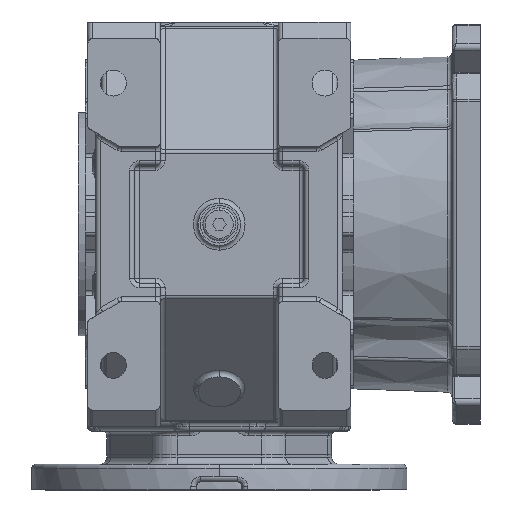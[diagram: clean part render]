
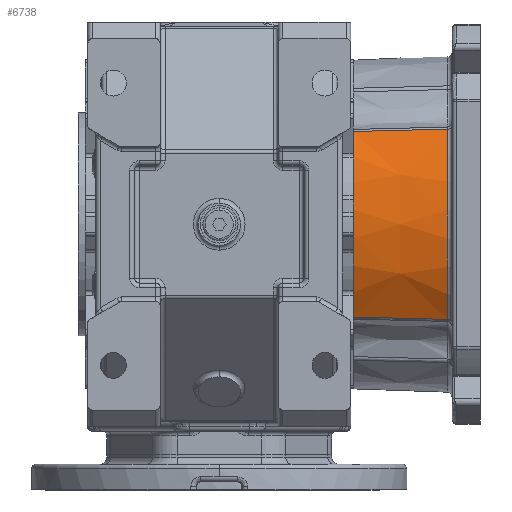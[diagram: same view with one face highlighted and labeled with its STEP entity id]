
A CAD part, front view. The second image highlights one B-rep face of the part: STEP entity #6738.
In plain terms, the highlighted conical face has half-angle 2 degrees and reference radius 71.467 mm.
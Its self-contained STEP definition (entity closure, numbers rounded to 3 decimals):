
#5644 = EDGE_CURVE ( 'NONE', #208118, #208122, #45247, .T. ) ;
#6683 = ORIENTED_EDGE ( 'NONE', *, *, #6685, .T. ) ;
#6685 = EDGE_CURVE ( 'NONE', #208122, #6687, #47218, .T. ) ;
#6687 = VERTEX_POINT ( 'NONE', #47213 ) ;
#6689 = ORIENTED_EDGE ( 'NONE', *, *, #6691, .F. ) ;
#6691 = EDGE_CURVE ( 'NONE', #6693, #6687, #47219, .T. ) ;
#6693 = VERTEX_POINT ( 'NONE', #47194 ) ;
#6695 = ORIENTED_EDGE ( 'NONE', *, *, #6697, .T. ) ;
#6697 = EDGE_CURVE ( 'NONE', #6693, #208118, #47304, .T. ) ;
#6738 = ADVANCED_FACE ( 'NONE', ( #47318 ), #47317, .T. ) ;
#6741 = EDGE_LOOP ( 'NONE', ( #6743, #6683, #6689, #6695 ) ) ;
#6743 = ORIENTED_EDGE ( 'NONE', *, *, #5644, .T. ) ;
#45240 = DIRECTION ( 'NONE',  ( -1., 0., 0. ) ) ;
#45242 = DIRECTION ( 'NONE',  ( 0., 0., 1. ) ) ;
#45243 = CARTESIAN_POINT ( 'NONE',  ( 0., 0., -40.07 ) ) ;
#45245 = AXIS2_PLACEMENT_3D ( 'NONE', #45243, #45242, #45240 ) ;
#45247 = CIRCLE ( 'NONE', #45245, 71.399 ) ;
#47194 = CARTESIAN_POINT ( 'NONE',  ( -39.461, -57.817, 0. ) ) ;
#47197 = DIRECTION ( 'NONE',  ( 1., 0., 0. ) ) ;
#47199 = DIRECTION ( 'NONE',  ( 0., 0., 1. ) ) ;
#47200 = CARTESIAN_POINT ( 'NONE',  ( 0., 0., 0. ) ) ;
#47201 = AXIS2_PLACEMENT_3D ( 'NONE', #47200, #47199, #47197 ) ;
#47203 = CARTESIAN_POINT ( 'NONE',  ( 39.461, -57.817, 0. ) ) ;
#47205 = CARTESIAN_POINT ( 'NONE',  ( 39.792, -58.156, -13.357 ) ) ;
#47207 = CARTESIAN_POINT ( 'NONE',  ( 40.123, -58.494, -26.713 ) ) ;
#47209 = CARTESIAN_POINT ( 'NONE',  ( 40.454, -58.833, -40.07 ) ) ;
#47213 = CARTESIAN_POINT ( 'NONE',  ( 39.461, -57.817, 0. ) ) ;
#47218 = B_SPLINE_CURVE_WITH_KNOTS ( 'NONE', 3,
 ( #47209, #47207, #47205, #47203 ),
 .UNSPECIFIED., .F., .F.,
 ( 4, 4 ),
 ( 0., 0.04 ),
 .UNSPECIFIED. ) ;
#47219 = CIRCLE ( 'NONE', #47201, 70. ) ;
#47293 = CARTESIAN_POINT ( 'NONE',  ( -40.454, -58.833, -40.07 ) ) ;
#47295 = CARTESIAN_POINT ( 'NONE',  ( -40.123, -58.494, -26.713 ) ) ;
#47298 = CARTESIAN_POINT ( 'NONE',  ( -39.792, -58.156, -13.357 ) ) ;
#47300 = CARTESIAN_POINT ( 'NONE',  ( -39.461, -57.817, 0. ) ) ;
#47304 = B_SPLINE_CURVE_WITH_KNOTS ( 'NONE', 3,
 ( #47300, #47298, #47295, #47293 ),
 .UNSPECIFIED., .F., .F.,
 ( 4, 4 ),
 ( 0., 0.04 ),
 .UNSPECIFIED. ) ;
#47309 = DIRECTION ( 'NONE',  ( 0., 0., -1. ) ) ;
#47310 = CARTESIAN_POINT ( 'NONE',  ( 0., 0., -42. ) ) ;
#47311 = AXIS2_PLACEMENT_3D ( 'NONE', #47310, #47309, #47444 ) ;
#47317 = CONICAL_SURFACE ( 'NONE', #47311, 71.467, 0.035 ) ;
#47318 = FACE_OUTER_BOUND ( 'NONE', #6741, .T. ) ;
#47444 = DIRECTION ( 'NONE',  ( -1., 0., 0. ) ) ;
#207020 = CARTESIAN_POINT ( 'NONE',  ( 40.454, -58.833, -40.07 ) ) ;
#207022 = CARTESIAN_POINT ( 'NONE',  ( -40.454, -58.833, -40.07 ) ) ;
#208118 = VERTEX_POINT ( 'NONE', #207022 ) ;
#208122 = VERTEX_POINT ( 'NONE', #207020 ) ;
